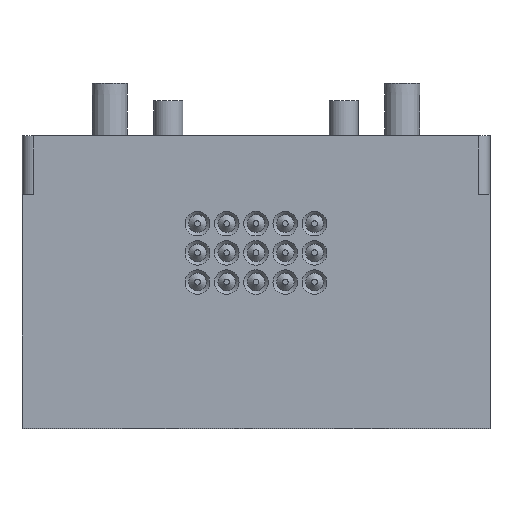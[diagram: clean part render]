
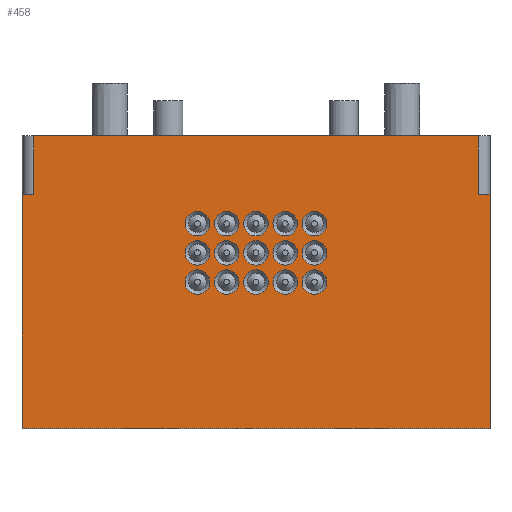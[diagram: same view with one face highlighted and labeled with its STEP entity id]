
A CAD part, top view. The second image highlights one B-rep face of the part: STEP entity #458.
In plain terms, the highlighted planar face has unit normal (0, 0, 1).
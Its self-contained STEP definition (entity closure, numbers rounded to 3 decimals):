
#458=ADVANCED_FACE('',(#1117,#1118,#1119,#1120,#1121,#1122,#1123,#1124,#1125,#1126,#1127,#1128,#1129,#1130,#1131,#1132),#1133,.F.);
#1117=FACE_BOUND('',#2040,.T.);
#1118=FACE_BOUND('',#2041,.T.);
#1119=FACE_BOUND('',#2042,.T.);
#1120=FACE_BOUND('',#2043,.T.);
#1121=FACE_BOUND('',#2044,.T.);
#1122=FACE_BOUND('',#2045,.T.);
#1123=FACE_BOUND('',#2046,.T.);
#1124=FACE_BOUND('',#2047,.T.);
#1125=FACE_BOUND('',#2048,.T.);
#1126=FACE_BOUND('',#2049,.T.);
#1127=FACE_BOUND('',#2050,.T.);
#1128=FACE_BOUND('',#2051,.T.);
#1129=FACE_BOUND('',#2052,.T.);
#1130=FACE_BOUND('',#2053,.T.);
#1131=FACE_BOUND('',#2054,.T.);
#1132=FACE_OUTER_BOUND('',#2055,.T.);
#1133=PLANE('',#2056);
#2040=EDGE_LOOP('',(#3150));
#2041=EDGE_LOOP('',(#3151));
#2042=EDGE_LOOP('',(#3152));
#2043=EDGE_LOOP('',(#3153));
#2044=EDGE_LOOP('',(#3154));
#2045=EDGE_LOOP('',(#3155));
#2046=EDGE_LOOP('',(#3156));
#2047=EDGE_LOOP('',(#3157));
#2048=EDGE_LOOP('',(#3158));
#2049=EDGE_LOOP('',(#3159));
#2050=EDGE_LOOP('',(#3160));
#2051=EDGE_LOOP('',(#3161));
#2052=EDGE_LOOP('',(#3162));
#2053=EDGE_LOOP('',(#3163));
#2054=EDGE_LOOP('',(#3164));
#2055=EDGE_LOOP('',(#3165,#3166,#3167,#3168,#3169,#3170,#3171,#3172));
#2056=AXIS2_PLACEMENT_3D('',#3173,#3174,#3175);
#3150=ORIENTED_EDGE('',*,*,#4636,.T.);
#3151=ORIENTED_EDGE('',*,*,#4724,.T.);
#3152=ORIENTED_EDGE('',*,*,#4791,.T.);
#3153=ORIENTED_EDGE('',*,*,#4629,.T.);
#3154=ORIENTED_EDGE('',*,*,#4800,.T.);
#3155=ORIENTED_EDGE('',*,*,#4806,.T.);
#3156=ORIENTED_EDGE('',*,*,#4824,.T.);
#3157=ORIENTED_EDGE('',*,*,#4809,.T.);
#3158=ORIENTED_EDGE('',*,*,#4649,.T.);
#3159=ORIENTED_EDGE('',*,*,#4812,.T.);
#3160=ORIENTED_EDGE('',*,*,#4815,.T.);
#3161=ORIENTED_EDGE('',*,*,#4662,.T.);
#3162=ORIENTED_EDGE('',*,*,#4820,.T.);
#3163=ORIENTED_EDGE('',*,*,#4822,.T.);
#3164=ORIENTED_EDGE('',*,*,#4675,.T.);
#3165=ORIENTED_EDGE('',*,*,#4825,.T.);
#3166=ORIENTED_EDGE('',*,*,#4751,.F.);
#3167=ORIENTED_EDGE('',*,*,#4727,.F.);
#3168=ORIENTED_EDGE('',*,*,#4826,.F.);
#3169=ORIENTED_EDGE('',*,*,#4733,.F.);
#3170=ORIENTED_EDGE('',*,*,#4744,.F.);
#3171=ORIENTED_EDGE('',*,*,#4717,.T.);
#3172=ORIENTED_EDGE('',*,*,#4827,.F.);
#3173=CARTESIAN_POINT('',(-20.0,0.,4.0));
#3174=DIRECTION('',(0.0,0.0,-1.0));
#3175=DIRECTION('',(0.0,-1.0,0.0));
#4629=EDGE_CURVE('',#5333,#5333,#5334,.T.);
#4636=EDGE_CURVE('',#5344,#5344,#5345,.T.);
#4649=EDGE_CURVE('',#5366,#5366,#5367,.T.);
#4662=EDGE_CURVE('',#5387,#5387,#5388,.T.);
#4675=EDGE_CURVE('',#5408,#5408,#5409,.T.);
#4717=EDGE_CURVE('',#5479,#5476,#5480,.T.);
#4724=EDGE_CURVE('',#5490,#5490,#5491,.T.);
#4727=EDGE_CURVE('',#5494,#5496,#5497,.T.);
#4733=EDGE_CURVE('',#5505,#5506,#5507,.T.);
#4744=EDGE_CURVE('',#5479,#5505,#5522,.T.);
#4751=EDGE_CURVE('',#5496,#5532,#5533,.T.);
#4791=EDGE_CURVE('',#5593,#5593,#5594,.T.);
#4800=EDGE_CURVE('',#5608,#5608,#5609,.T.);
#4806=EDGE_CURVE('',#5616,#5616,#5617,.T.);
#4809=EDGE_CURVE('',#5621,#5621,#5622,.T.);
#4812=EDGE_CURVE('',#5626,#5626,#5627,.T.);
#4815=EDGE_CURVE('',#5631,#5631,#5632,.T.);
#4820=EDGE_CURVE('',#5639,#5639,#5640,.T.);
#4822=EDGE_CURVE('',#5642,#5642,#5643,.T.);
#4824=EDGE_CURVE('',#5645,#5645,#5646,.T.);
#4825=EDGE_CURVE('',#5647,#5532,#5648,.T.);
#4826=EDGE_CURVE('',#5506,#5494,#5649,.T.);
#4827=EDGE_CURVE('',#5647,#5476,#5650,.T.);
#5333=VERTEX_POINT('',#6363);
#5334=CIRCLE('',#6364,1.05);
#5344=VERTEX_POINT('',#6377);
#5345=CIRCLE('',#6378,1.05);
#5366=VERTEX_POINT('',#6403);
#5367=CIRCLE('',#6404,1.05);
#5387=VERTEX_POINT('',#6427);
#5388=CIRCLE('',#6428,1.05);
#5408=VERTEX_POINT('',#6456);
#5409=CIRCLE('',#6457,1.05);
#5476=VERTEX_POINT('',#6541);
#5479=VERTEX_POINT('',#6544);
#5480=LINE('',#6545,#6546);
#5490=VERTEX_POINT('',#6557);
#5491=CIRCLE('',#6558,1.05);
#5494=VERTEX_POINT('',#6561);
#5496=VERTEX_POINT('',#6564);
#5497=LINE('',#6565,#6566);
#5505=VERTEX_POINT('',#6578);
#5506=VERTEX_POINT('',#6579);
#5507=LINE('',#6580,#6581);
#5522=LINE('',#6601,#6602);
#5532=VERTEX_POINT('',#6612);
#5533=LINE('',#6613,#6614);
#5593=VERTEX_POINT('',#6687);
#5594=CIRCLE('',#6688,1.05);
#5608=VERTEX_POINT('',#6706);
#5609=CIRCLE('',#6707,1.05);
#5616=VERTEX_POINT('',#6716);
#5617=CIRCLE('',#6717,1.05);
#5621=VERTEX_POINT('',#6721);
#5622=CIRCLE('',#6722,1.05);
#5626=VERTEX_POINT('',#6726);
#5627=CIRCLE('',#6727,1.05);
#5631=VERTEX_POINT('',#6731);
#5632=CIRCLE('',#6732,1.05);
#5639=VERTEX_POINT('',#6739);
#5640=CIRCLE('',#6740,1.05);
#5642=VERTEX_POINT('',#6742);
#5643=CIRCLE('',#6743,1.05);
#5645=VERTEX_POINT('',#6745);
#5646=CIRCLE('',#6746,1.05);
#5647=VERTEX_POINT('',#6747);
#5648=LINE('',#6748,#6749);
#5649=LINE('',#6750,#6751);
#5650=LINE('',#6752,#6753);
#6363=CARTESIAN_POINT('',(-1.45,-10.0,4.0));
#6364=AXIS2_PLACEMENT_3D('',#7654,#7655,#7656);
#6377=CARTESIAN_POINT('',(-3.95,-10.0,4.0));
#6378=AXIS2_PLACEMENT_3D('',#7663,#7664,#7665);
#6403=CARTESIAN_POINT('',(3.55,-10.0,4.0));
#6404=AXIS2_PLACEMENT_3D('',#7682,#7683,#7684);
#6427=CARTESIAN_POINT('',(3.55,-7.5,4.0));
#6428=AXIS2_PLACEMENT_3D('',#7703,#7704,#7705);
#6456=CARTESIAN_POINT('',(-3.95,-7.5,4.0));
#6457=AXIS2_PLACEMENT_3D('',#7717,#7718,#7719);
#6541=CARTESIAN_POINT('',(19.0,0.,4.0));
#6544=CARTESIAN_POINT('',(19.0,-5.0,4.0));
#6545=CARTESIAN_POINT('',(19.0,0.,4.0));
#6546=VECTOR('',#7773,1.0);
#6557=CARTESIAN_POINT('',(-3.95,-12.5,4.0));
#6558=AXIS2_PLACEMENT_3D('',#7784,#7785,#7786);
#6561=CARTESIAN_POINT('',(-20.0,-25.0,4.0));
#6564=CARTESIAN_POINT('',(-20.0,-5.0,4.0));
#6565=CARTESIAN_POINT('',(-20.0,-25.0,4.0));
#6566=VECTOR('',#7788,1.0);
#6578=CARTESIAN_POINT('',(20.0,-5.0,4.0));
#6579=CARTESIAN_POINT('',(20.0,-25.0,4.0));
#6580=CARTESIAN_POINT('',(20.0,-5.0,4.0));
#6581=VECTOR('',#7793,1.0);
#6601=CARTESIAN_POINT('',(-20.0,-5.0,4.0));
#6602=VECTOR('',#7805,1.0);
#6612=CARTESIAN_POINT('',(-19.0,-5.0,4.0));
#6613=CARTESIAN_POINT('',(-20.0,-5.0,4.0));
#6614=VECTOR('',#7815,1.0);
#6687=CARTESIAN_POINT('',(-1.45,-12.5,4.0));
#6688=AXIS2_PLACEMENT_3D('',#7868,#7869,#7870);
#6706=CARTESIAN_POINT('',(1.05,-10.0,4.0));
#6707=AXIS2_PLACEMENT_3D('',#7878,#7879,#7880);
#6716=CARTESIAN_POINT('',(1.05,-12.5,4.0));
#6717=AXIS2_PLACEMENT_3D('',#7886,#7887,#7888);
#6721=CARTESIAN_POINT('',(6.05,-12.5,4.0));
#6722=AXIS2_PLACEMENT_3D('',#7892,#7893,#7894);
#6726=CARTESIAN_POINT('',(6.05,-10.0,4.0));
#6727=AXIS2_PLACEMENT_3D('',#7898,#7899,#7900);
#6731=CARTESIAN_POINT('',(6.05,-7.5,4.0));
#6732=AXIS2_PLACEMENT_3D('',#7904,#7905,#7906);
#6739=CARTESIAN_POINT('',(1.05,-7.5,4.0));
#6740=AXIS2_PLACEMENT_3D('',#7913,#7914,#7915);
#6742=CARTESIAN_POINT('',(-1.45,-7.5,4.0));
#6743=AXIS2_PLACEMENT_3D('',#7916,#7917,#7918);
#6745=CARTESIAN_POINT('',(3.55,-12.5,4.0));
#6746=AXIS2_PLACEMENT_3D('',#7919,#7920,#7921);
#6747=CARTESIAN_POINT('',(-19.0,0.,4.0));
#6748=CARTESIAN_POINT('',(-19.0,0.,4.0));
#6749=VECTOR('',#7922,1.0);
#6750=CARTESIAN_POINT('',(20.0,-25.0,4.0));
#6751=VECTOR('',#7923,1.0);
#6752=CARTESIAN_POINT('',(-20.0,0.,4.0));
#6753=VECTOR('',#7924,1.0);
#7654=CARTESIAN_POINT('',(-2.5,-10.0,4.0));
#7655=DIRECTION('',(0.0,0.0,-1.0));
#7656=DIRECTION('',(1.0,0.0,0.0));
#7663=CARTESIAN_POINT('',(-5.0,-10.0,4.0));
#7664=DIRECTION('',(0.0,0.0,-1.0));
#7665=DIRECTION('',(1.0,0.0,0.0));
#7682=CARTESIAN_POINT('',(2.5,-10.0,4.0));
#7683=DIRECTION('',(0.0,0.0,-1.0));
#7684=DIRECTION('',(1.0,0.0,0.0));
#7703=CARTESIAN_POINT('',(2.5,-7.5,4.0));
#7704=DIRECTION('',(0.0,0.0,-1.0));
#7705=DIRECTION('',(1.0,0.0,0.0));
#7717=CARTESIAN_POINT('',(-5.0,-7.5,4.0));
#7718=DIRECTION('',(0.0,0.0,-1.0));
#7719=DIRECTION('',(1.0,0.0,0.0));
#7773=DIRECTION('',(0.0,1.0,0.0));
#7784=CARTESIAN_POINT('',(-5.0,-12.5,4.0));
#7785=DIRECTION('',(0.0,0.0,-1.0));
#7786=DIRECTION('',(1.0,0.0,0.0));
#7788=DIRECTION('',(0.0,1.0,0.0));
#7793=DIRECTION('',(0.0,-1.0,0.0));
#7805=DIRECTION('',(1.0,0.0,0.0));
#7815=DIRECTION('',(1.0,0.0,0.0));
#7868=CARTESIAN_POINT('',(-2.5,-12.5,4.0));
#7869=DIRECTION('',(0.0,0.0,-1.0));
#7870=DIRECTION('',(1.0,0.0,0.0));
#7878=CARTESIAN_POINT('',(0.,-10.0,4.0));
#7879=DIRECTION('',(0.0,0.0,-1.0));
#7880=DIRECTION('',(1.0,0.0,0.0));
#7886=CARTESIAN_POINT('',(0.,-12.5,4.0));
#7887=DIRECTION('',(0.0,0.0,-1.0));
#7888=DIRECTION('',(1.0,0.0,0.0));
#7892=CARTESIAN_POINT('',(5.0,-12.5,4.0));
#7893=DIRECTION('',(0.0,0.0,-1.0));
#7894=DIRECTION('',(1.0,0.0,0.0));
#7898=CARTESIAN_POINT('',(5.0,-10.0,4.0));
#7899=DIRECTION('',(0.0,0.0,-1.0));
#7900=DIRECTION('',(1.0,0.0,0.0));
#7904=CARTESIAN_POINT('',(5.0,-7.5,4.0));
#7905=DIRECTION('',(0.0,0.0,-1.0));
#7906=DIRECTION('',(1.0,0.0,0.0));
#7913=CARTESIAN_POINT('',(0.,-7.5,4.0));
#7914=DIRECTION('',(0.0,0.0,-1.0));
#7915=DIRECTION('',(1.0,0.0,0.0));
#7916=CARTESIAN_POINT('',(-2.5,-7.5,4.0));
#7917=DIRECTION('',(0.0,0.0,-1.0));
#7918=DIRECTION('',(1.0,0.0,0.0));
#7919=CARTESIAN_POINT('',(2.5,-12.5,4.0));
#7920=DIRECTION('',(0.0,0.0,-1.0));
#7921=DIRECTION('',(1.0,0.0,0.0));
#7922=DIRECTION('',(0.0,-1.0,0.0));
#7923=DIRECTION('',(-1.0,0.0,0.0));
#7924=DIRECTION('',(1.0,0.0,0.0));
